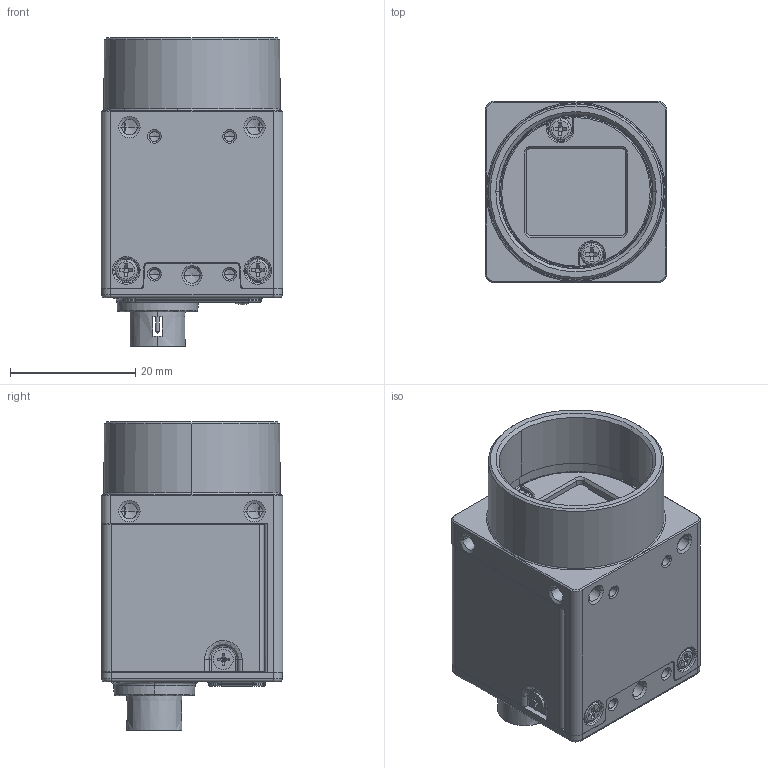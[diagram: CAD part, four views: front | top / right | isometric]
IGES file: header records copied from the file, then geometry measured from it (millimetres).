
Start section:  PTC IGES file: dh9-rdi000514-6001_18-95.igs
Global section: file name: dh9-rdi000514-6001_18-95.igs; native system: Creo Parametric by PTC Inc.; preprocessor: 2020184; author: 401332; organization: Unknown; date: 20250318.141612; units: millimetre
Bounding box: 29 x 29 x 49.25 mm (x, y, z)
Surface area: 14794.1 mm2 (no closed solid volume)
Topology: 0 solids, 0 shells, 2346 faces, 12466 edges, 12397 vertices
Faces by surface type: bspline 1168, revolution 1141, extrusion 37
